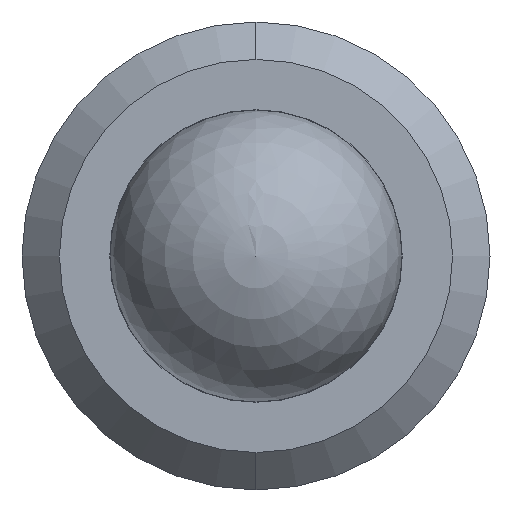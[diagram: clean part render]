
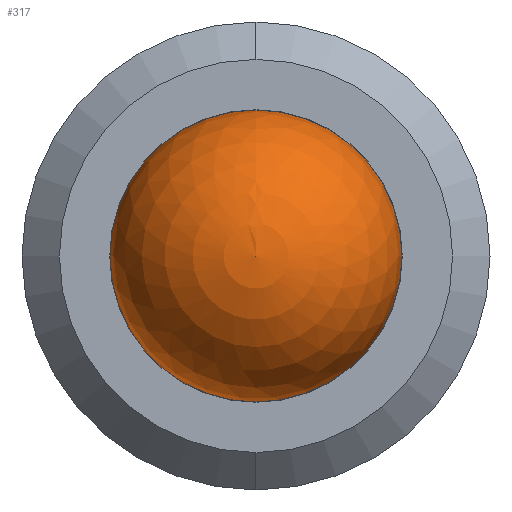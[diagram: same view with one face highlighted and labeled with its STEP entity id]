
A CAD part, left-side view. The second image highlights one B-rep face of the part: STEP entity #317.
In plain terms, the highlighted spherical face has radius 1.984 mm.
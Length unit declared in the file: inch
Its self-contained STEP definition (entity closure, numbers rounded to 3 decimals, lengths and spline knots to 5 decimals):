
#14 = DIRECTION ( 'NONE',  ( 1., 0., 0. ) ) ;
#24 = SPHERICAL_SURFACE ( 'NONE', #208, 0.07813 ) ;
#39 = CARTESIAN_POINT ( 'NONE',  ( 0., -0.07813, 0. ) ) ;
#68 = DIRECTION ( 'NONE',  ( 0., 0., -1. ) ) ;
#76 = CARTESIAN_POINT ( 'NONE',  ( 0., 0., 0. ) ) ;
#91 = AXIS2_PLACEMENT_3D ( 'NONE', #605, #14, #68 ) ;
#93 = CIRCLE ( 'NONE', #94, 0.07813 ) ;
#94 = AXIS2_PLACEMENT_3D ( 'NONE', #552, #593, #595 ) ;
#208 = AXIS2_PLACEMENT_3D ( 'NONE', #76, #515, #375 ) ;
#242 = ORIENTED_EDGE ( 'NONE', *, *, #559, .T. ) ;
#317 = ADVANCED_FACE ( 'NONE', ( #523 ), #24, .T. ) ;
#349 = ORIENTED_EDGE ( 'NONE', *, *, #560, .F. ) ;
#375 = DIRECTION ( 'NONE',  ( 0., 0., 1. ) ) ;
#383 = VERTEX_POINT ( 'NONE', #423 ) ;
#423 = CARTESIAN_POINT ( 'NONE',  ( 0., 0.07813, 0. ) ) ;
#483 = CIRCLE ( 'NONE', #91, 0.07813 ) ;
#502 = VERTEX_POINT ( 'NONE', #39 ) ;
#506 = EDGE_LOOP ( 'NONE', ( #349, #242 ) ) ;
#515 = DIRECTION ( 'NONE',  ( -1., 0., 0. ) ) ;
#523 = FACE_OUTER_BOUND ( 'NONE', #506, .T. ) ;
#552 = CARTESIAN_POINT ( 'NONE',  ( 0., 0., 0. ) ) ;
#559 = EDGE_CURVE ( 'NONE', #383, #502, #93, .T. ) ;
#560 = EDGE_CURVE ( 'NONE', #383, #502, #483, .T. ) ;
#593 = DIRECTION ( 'NONE',  ( -1., 0., 0. ) ) ;
#595 = DIRECTION ( 'NONE',  ( 0., 0., 1. ) ) ;
#605 = CARTESIAN_POINT ( 'NONE',  ( 0., 0., 0. ) ) ;
